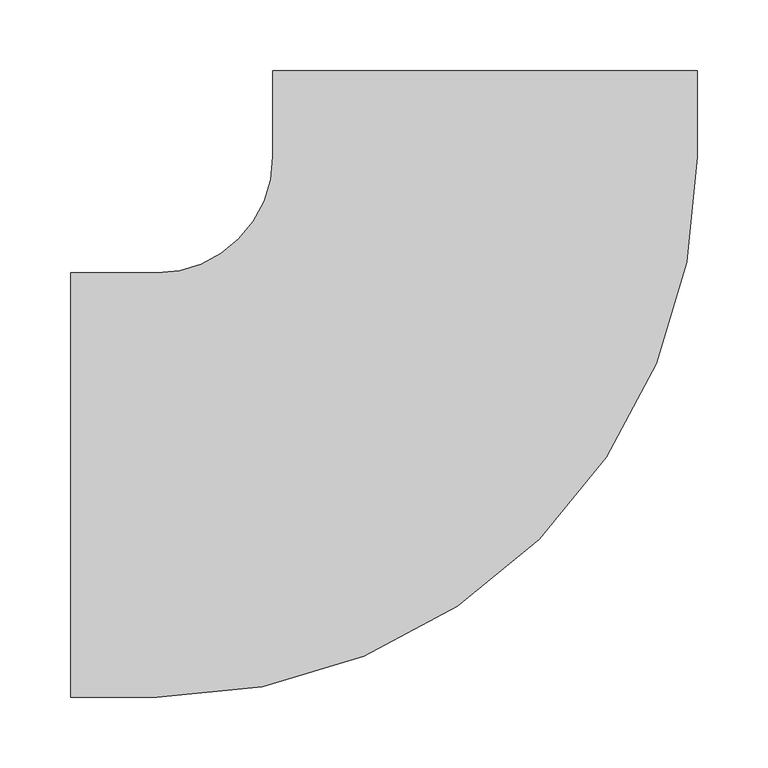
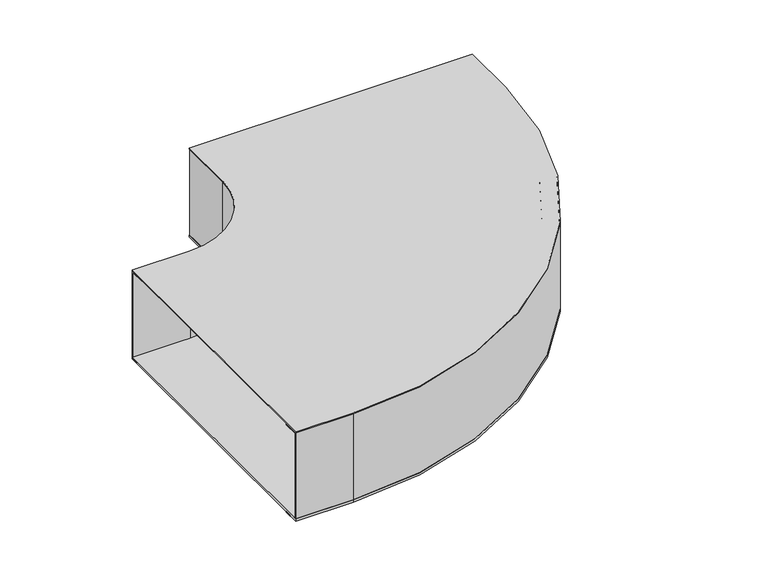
"""IFC4 building model written with IfcOpenShell, lengths in millimetres: cable carrier fitting geometry, CPT_Horizontal Bend_Basorcanal : Basorcanal CPT."""

from ifc_helpers import new_model, si_unit, point, frame, frame_2d, origin, place, context, project, spatial, polyline, circle_curve, trimmed, segment, composite_curve, outline, extrude, source, transform, mapped, element, save
from ifc_brep_helpers import plane_surface, cylinder_surface, revolved_surface, advanced_brep


def cable_carrier_fitting_90eee520(model_context):
    return source(origin(), model_context, "Body", "SolidModel", [
        extrude(outline(composite_curve([segment(polyline([(-150.0, 293.0), (150.0, 293.0), (150.0, 232.0)]), True, "CONTINUOUS"), segment(trimmed(circle_curve(frame_2d((-232.0, 232.0)), 382.0), [point((150.0, 232.0))], [point((-232.0, -150.0))], False, "CARTESIAN"), True, "CONTINUOUS"), segment(polyline([(-232.0, -150.0), (-293.0, -150.0), (-293.0, 150.0), (-232.0, 150.0)]), True, "CONTINUOUS"), segment(trimmed(circle_curve(frame_2d((-232.0, 232.0)), 82.0), [point((-232.0, 150.0))], [point((-150.0, 232.0))], True, "CARTESIAN"), True, "CONTINUOUS"), segment(polyline([(-150.0, 232.0), (-150.0, 293.0)]), True, "CONTINUOUS")], self_intersect=False)), frame((0.0, 0.0, 49.0), z_axis=(0.0, 0.0, 1.0), x_axis=(1.0, 0.0, 0.0)), (0.0, 0.0, 1.0), 1.0),
        extrude(outline(composite_curve([segment(polyline([(-150.0, 232.0), (-150.0, 293.0), (150.0, 293.0), (150.0, 232.0)]), True, "CONTINUOUS"), segment(trimmed(circle_curve(frame_2d((-232.0, 232.0)), 382.0), [point((150.0, 232.0))], [point((-232.0, -150.0))], False, "CARTESIAN"), True, "CONTINUOUS"), segment(polyline([(-232.0, -150.0), (-293.0, -150.0), (-293.0, 150.0), (-232.0, 150.0)]), True, "CONTINUOUS"), segment(trimmed(circle_curve(frame_2d((-232.0, 232.0)), 82.0), [point((-232.0, 150.0))], [point((-150.0, 232.0))], True, "CARTESIAN"), True, "CONTINUOUS")], self_intersect=False)), frame((0.0, 0.0, -50.0), z_axis=(0.0, 0.0, 1.0), x_axis=(1.0, 0.0, 0.0)), (0.0, 0.0, 1.0), 2.54),
        advanced_brep(
        [(-293.0, 133.0, 48.0), (-293.0, 133.0, 49.0), (-293.0, 150.0, 49.0), (-293.0, 150.0, -50.0), (-293.0, 133.0, -50.0), (-293.0, 133.0, -49.0), (-293.0, 149.0, -49.0), (-293.0, 149.0, 48.0), (-232.0, 133.0, 48.0), (-232.0, 133.0, 49.0), (-133.0, 232.0, 49.0), (-133.0, 292.0, 49.0), (-150.0, 292.0, 49.0), (-150.0, 232.0, 49.0), (-232.0, 150.0, 49.0), (-232.0, 150.0, -50.0), (-150.0, 232.0, -50.0), (-150.0, 292.0, -50.0), (-133.0, 292.0, -50.0), (-133.0, 232.0, -50.0), (-232.0, 133.0, -50.0), (-232.0, 133.0, -49.0), (-133.0, 232.0, -49.0), (-133.0, 292.0, -49.0), (-149.0, 292.0, -49.0), (-149.0, 232.0, -49.0), (-232.0, 149.0, -49.0), (-232.0, 149.0, 48.0), (-149.0, 232.0, 48.0), (-149.0, 292.0, 48.0), (-133.0, 292.0, 48.0), (-133.0, 232.0, 48.0)],
        [
            (0, 1),
            (1, 2),
            (2, 3),
            (3, 4),
            (4, 5),
            (5, 6),
            (6, 7),
            (7, 0),
            (0, 8),
            (8, 9),
            (9, 1),
            (9, 10, circle_curve(frame((-232.0, 232.0, 49.0), z_axis=(0.0, 0.0, 1.0), x_axis=(0.0, -1.0, 0.0)), 99.0)),
            (10, 11),
            (11, 12),
            (12, 13),
            (13, 14, circle_curve(frame((-232.0, 232.0, 49.0), z_axis=(0.0, 0.0, -1.0), x_axis=(0.0, -1.0, 0.0)), 82.0)),
            (14, 2),
            (14, 15),
            (15, 3),
            (15, 16, circle_curve(frame((-232.0, 232.0, -50.0), z_axis=(0.0, 0.0, 1.0), x_axis=(0.0, -1.0, 0.0)), 82.0)),
            (16, 17),
            (17, 18),
            (18, 19),
            (19, 20, circle_curve(frame((-232.0, 232.0, -50.0), z_axis=(0.0, 0.0, -1.0), x_axis=(0.0, -1.0, 0.0)), 99.0)),
            (20, 4),
            (20, 21),
            (21, 5),
            (21, 22, circle_curve(frame((-232.0, 232.0, -49.0), z_axis=(0.0, 0.0, 1.0), x_axis=(0.0, -1.0, 0.0)), 99.0)),
            (22, 23),
            (23, 24),
            (24, 25),
            (25, 26, circle_curve(frame((-232.0, 232.0, -49.0), z_axis=(0.0, 0.0, -1.0), x_axis=(0.0, -1.0, 0.0)), 83.0)),
            (26, 6),
            (26, 27),
            (27, 7),
            (27, 28, circle_curve(frame((-232.0, 232.0, 48.0), z_axis=(0.0, 0.0, 1.0), x_axis=(0.0, -1.0, 0.0)), 83.0)),
            (28, 29),
            (29, 30),
            (30, 31),
            (31, 8, circle_curve(frame((-232.0, 232.0, 48.0), z_axis=(0.0, 0.0, -1.0), x_axis=(0.0, -1.0, 0.0)), 99.0)),
            (31, 10),
            (13, 16),
            (19, 22),
            (25, 28),
            (29, 24),
            (23, 18),
            (17, 12),
            (11, 30),
        ],
        [
            plane_surface(frame((-293.0, 0.0, 0.0), z_axis=(-1.0, 0.0, 0.0), x_axis=(0.0, 0.0, 1.0))),
            plane_surface(frame((-293.0, 133.0, 48.0), z_axis=(0.0, -1.0, 0.0), x_axis=(1.0, 0.0, 0.0))),
            plane_surface(frame((-293.0, 133.0, 49.0), z_axis=(0.0, 0.0, 1.0), x_axis=(1.0, 0.0, 0.0))),
            plane_surface(frame((-293.0, 150.0, 49.0), z_axis=(0.0, 1.0, 0.0), x_axis=(1.0, 0.0, 0.0))),
            plane_surface(frame((-293.0, 150.0, -50.0), z_axis=(0.0, 0.0, -1.0), x_axis=(1.0, 0.0, 0.0))),
            plane_surface(frame((-293.0, 133.0, -50.0), z_axis=(0.0, -1.0, 0.0), x_axis=(1.0, 0.0, 0.0))),
            plane_surface(frame((-293.0, 133.0, -49.0), z_axis=(0.0, 0.0, 1.0), x_axis=(1.0, 0.0, 0.0))),
            plane_surface(frame((-293.0, 149.0, -49.0), z_axis=(0.0, -1.0, 0.0), x_axis=(1.0, 0.0, 0.0))),
            plane_surface(frame((-293.0, 149.0, 48.0), z_axis=(0.0, 0.0, -1.0), x_axis=(1.0, 0.0, 0.0))),
            cylinder_surface(frame((-232.0, 232.0, 0.0), z_axis=(0.0, 0.0, 1.0), x_axis=(0.0, -1.0, 0.0)), 99.0),
            revolved_surface(polyline([(-232.0, 150.0, 49.0), (-232.0, 150.0, -50.0)]), (-232.0, 232.0, 0.0), (0.0, 0.0, 1.0)),
            cylinder_surface(frame((-232.0, 232.0, 0.0), z_axis=(0.0, 0.0, 1.0), x_axis=(0.0, -1.0, 0.0)), 83.0),
            plane_surface(frame((0.0, 292.0, 0.0), z_axis=(0.0, 1.0, 0.0), x_axis=(0.0, 0.0, 1.0))),
            plane_surface(frame((-133.0, 232.0, 48.0), z_axis=(1.0, 0.0, 0.0), x_axis=(0.0, 1.0, 0.0))),
            plane_surface(frame((-150.0, 232.0, 49.0), z_axis=(-1.0, 0.0, 0.0), x_axis=(0.0, 1.0, 0.0))),
            plane_surface(frame((-133.0, 232.0, -50.0), z_axis=(1.0, 0.0, 0.0), x_axis=(0.0, 1.0, 0.0))),
            plane_surface(frame((-149.0, 232.0, -49.0), z_axis=(1.0, 0.0, 0.0), x_axis=(0.0, 1.0, 0.0))),
        ],
        [
            (0, [[1, 2, 3, 4, 5, 6, 7, 8]]),
            (1, [[-1, 9, 10, 11]]),
            (2, [[-2, -11, 12, 13, 14, 15, 16, 17]]),
            (3, [[-3, -17, 18, 19]]),
            (4, [[-4, -19, 20, 21, 22, 23, 24, 25]]),
            (5, [[-5, -25, 26, 27]]),
            (6, [[-6, -27, 28, 29, 30, 31, 32, 33]]),
            (7, [[-7, -33, 34, 35]]),
            (8, [[-8, -35, 36, 37, 38, 39, 40, -9]]),
            (9, [[-12, -10, -40, 41]]),
            (10, [[-20, -18, -16, 42]]),
            (9, [[-28, -26, -24, 43]]),
            (11, [[-36, -34, -32, 44]]),
            (12, [[-38, 45, -30, 46, -22, 47, -14, 48]]),
            (13, [[-41, -39, -48, -13]]),
            (14, [[-42, -15, -47, -21]]),
            (15, [[-43, -23, -46, -29]]),
            (16, [[-44, -31, -45, -37]]),
        ],
    ),
        advanced_brep(
        [(-293.0, -150.0, 49.0), (-293.0, -133.0, 49.0), (-293.0, -133.0, 48.0), (-293.0, -149.0, 48.0), (-293.0, -149.0, -49.0), (-293.0, -133.0, -49.0), (-293.0, -133.0, -50.0), (-293.0, -150.0, -50.0), (-232.0, -150.0, 49.0), (150.0, 232.0, 49.0), (150.0, 292.0, 49.0), (133.0, 292.0, 49.0), (133.0, 232.0, 49.0), (-232.0, -133.0, 49.0), (-232.0, -133.0, 48.0), (133.0, 232.0, 48.0), (133.0, 292.0, 48.0), (149.0, 292.0, 48.0), (149.0, 232.0, 48.0), (-232.0, -149.0, 48.0), (-232.0, -149.0, -49.0), (149.0, 232.0, -49.0), (149.0, 292.0, -49.0), (133.0, 292.0, -49.0), (133.0, 232.0, -49.0), (-232.0, -133.0, -49.0), (-232.0, -133.0, -50.0), (133.0, 232.0, -50.0), (133.0, 292.0, -50.0), (150.0, 292.0, -50.0), (150.0, 232.0, -50.0), (-232.0, -150.0, -50.0)],
        [
            (0, 1),
            (1, 2),
            (2, 3),
            (3, 4),
            (4, 5),
            (5, 6),
            (6, 7),
            (7, 0),
            (0, 8),
            (8, 9, circle_curve(frame((-232.0, 232.0, 49.0), z_axis=(0.0, 0.0, 1.0), x_axis=(0.0, -1.0, 0.0)), 382.0)),
            (9, 10),
            (10, 11),
            (11, 12),
            (12, 13, circle_curve(frame((-232.0, 232.0, 49.0), z_axis=(0.0, 0.0, -1.0), x_axis=(0.0, -1.0, 0.0)), 365.0)),
            (13, 1),
            (13, 14),
            (14, 2),
            (14, 15, circle_curve(frame((-232.0, 232.0, 48.0), z_axis=(0.0, 0.0, 1.0), x_axis=(0.0, -1.0, 0.0)), 365.0)),
            (15, 16),
            (16, 17),
            (17, 18),
            (18, 19, circle_curve(frame((-232.0, 232.0, 48.0), z_axis=(0.0, 0.0, -1.0), x_axis=(0.0, -1.0, 0.0)), 381.0)),
            (19, 3),
            (19, 20),
            (20, 4),
            (20, 21, circle_curve(frame((-232.0, 232.0, -49.0), z_axis=(0.0, 0.0, 1.0), x_axis=(0.0, -1.0, 0.0)), 381.0)),
            (21, 22),
            (22, 23),
            (23, 24),
            (24, 25, circle_curve(frame((-232.0, 232.0, -49.0), z_axis=(0.0, 0.0, -1.0), x_axis=(0.0, -1.0, 0.0)), 365.0)),
            (25, 5),
            (25, 26),
            (26, 6),
            (26, 27, circle_curve(frame((-232.0, 232.0, -50.0), z_axis=(0.0, 0.0, 1.0), x_axis=(0.0, -1.0, 0.0)), 365.0)),
            (27, 28),
            (28, 29),
            (29, 30),
            (30, 31, circle_curve(frame((-232.0, 232.0, -50.0), z_axis=(0.0, 0.0, -1.0), x_axis=(0.0, -1.0, 0.0)), 382.0)),
            (31, 7),
            (31, 8),
            (12, 15),
            (18, 21),
            (24, 27),
            (30, 9),
            (10, 29),
            (28, 23),
            (22, 17),
            (16, 11),
        ],
        [
            plane_surface(frame((-293.0, 0.0, 0.0), z_axis=(-1.0, 0.0, 0.0), x_axis=(0.0, 0.0, 1.0))),
            plane_surface(frame((-293.0, -150.0, 49.0), z_axis=(0.0, 0.0, 1.0), x_axis=(1.0, 0.0, 0.0))),
            plane_surface(frame((-293.0, -133.0, 49.0), z_axis=(0.0, 1.0, 0.0), x_axis=(1.0, 0.0, 0.0))),
            plane_surface(frame((-293.0, -133.0, 48.0), z_axis=(0.0, 0.0, -1.0), x_axis=(1.0, 0.0, 0.0))),
            plane_surface(frame((-293.0, -149.0, 48.0), z_axis=(0.0, 1.0, 0.0), x_axis=(1.0, 0.0, 0.0))),
            plane_surface(frame((-293.0, -149.0, -49.0), z_axis=(0.0, 0.0, 1.0), x_axis=(1.0, 0.0, 0.0))),
            plane_surface(frame((-293.0, -133.0, -49.0), z_axis=(0.0, 1.0, 0.0), x_axis=(1.0, 0.0, 0.0))),
            plane_surface(frame((-293.0, -133.0, -50.0), z_axis=(0.0, 0.0, -1.0), x_axis=(1.0, 0.0, 0.0))),
            plane_surface(frame((-293.0, -150.0, -50.0), z_axis=(0.0, -1.0, 0.0), x_axis=(1.0, 0.0, 0.0))),
            revolved_surface(polyline([(-232.0, -133.0, 49.0), (-232.0, -133.0, 48.0)]), (-232.0, 232.0, 0.0), (0.0, 0.0, 1.0)),
            revolved_surface(polyline([(-232.0, -149.0, 48.0), (-232.0, -149.0, -49.0)]), (-232.0, 232.0, 0.0), (0.0, 0.0, 1.0)),
            revolved_surface(polyline([(-232.0, -133.0, -49.0), (-232.0, -133.0, -50.0)]), (-232.0, 232.0, 0.0), (0.0, 0.0, 1.0)),
            cylinder_surface(frame((-232.0, 232.0, 0.0), z_axis=(0.0, 0.0, 1.0), x_axis=(0.0, -1.0, 0.0)), 382.0),
            plane_surface(frame((0.0, 292.0, 0.0), z_axis=(0.0, 1.0, 0.0), x_axis=(0.0, 0.0, 1.0))),
            plane_surface(frame((133.0, 232.0, 49.0), z_axis=(-1.0, 0.0, 0.0), x_axis=(0.0, 1.0, 0.0))),
            plane_surface(frame((149.0, 232.0, 48.0), z_axis=(-1.0, 0.0, 0.0), x_axis=(0.0, 1.0, 0.0))),
            plane_surface(frame((133.0, 232.0, -49.0), z_axis=(-1.0, 0.0, 0.0), x_axis=(0.0, 1.0, 0.0))),
            plane_surface(frame((150.0, 232.0, -50.0), z_axis=(1.0, 0.0, 0.0), x_axis=(0.0, 1.0, 0.0))),
        ],
        [
            (0, [[1, 2, 3, 4, 5, 6, 7, 8]]),
            (1, [[-1, 9, 10, 11, 12, 13, 14, 15]]),
            (2, [[-2, -15, 16, 17]]),
            (3, [[-3, -17, 18, 19, 20, 21, 22, 23]]),
            (4, [[-4, -23, 24, 25]]),
            (5, [[-5, -25, 26, 27, 28, 29, 30, 31]]),
            (6, [[-6, -31, 32, 33]]),
            (7, [[-7, -33, 34, 35, 36, 37, 38, 39]]),
            (8, [[-8, -39, 40, -9]]),
            (9, [[-18, -16, -14, 41]]),
            (10, [[-26, -24, -22, 42]]),
            (11, [[-34, -32, -30, 43]]),
            (12, [[-10, -40, -38, 44]]),
            (13, [[45, -36, 46, -28, 47, -20, 48, -12]]),
            (14, [[-41, -13, -48, -19]]),
            (15, [[-42, -21, -47, -27]]),
            (16, [[-43, -29, -46, -35]]),
            (17, [[-44, -37, -45, -11]]),
        ],
    ),
    ])


if __name__ == "__main__":
    model = new_model("IFC4")
    model_context = context("Model", 3, world=origin())
    ifc_project = project(units=[si_unit("LENGTHUNIT", "METRE", prefix="MILLI")], contexts=[model_context])
    site = spatial("IfcSite", under=ifc_project)
    building = spatial("IfcBuilding", under=site)
    placement = place(None, origin())
    cable_carrier_fitting_shape = cable_carrier_fitting_90eee520(model_context)
    element("IfcCableCarrierFitting", 1, ObjectType="CPT_Horizontal Bend_Basorcanal : Basorcanal CPT", at=placement, inside=building, context=model_context, shape_type="MappedRepresentation", body=[
        mapped(cable_carrier_fitting_shape, transform((0.0, 0.0, 0.0), x_axis=(1.0, 0.0, 0.0), y_axis=(0.0, 1.0, 0.0), z_axis=(0.0, 0.0, 1.0))),
    ])
    save(model, "model.ifc")
